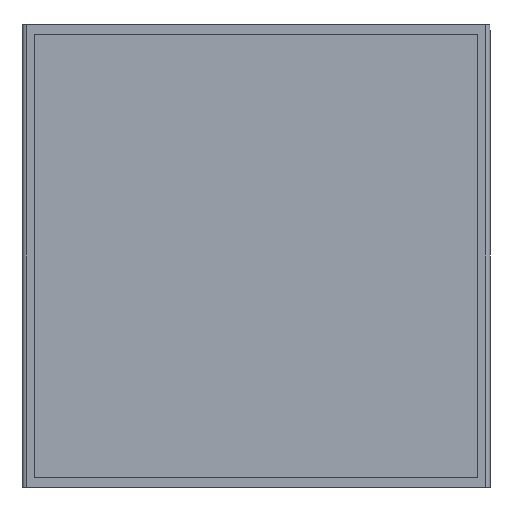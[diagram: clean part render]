
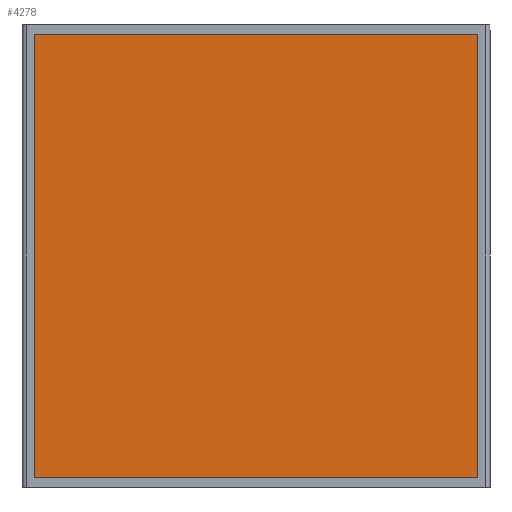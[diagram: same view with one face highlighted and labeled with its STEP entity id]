
A CAD part, front view. The second image highlights one B-rep face of the part: STEP entity #4278.
In plain terms, the highlighted planar face has unit normal (0, -1, 0).
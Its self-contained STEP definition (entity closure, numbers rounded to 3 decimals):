
#43 = CARTESIAN_POINT ( 'NONE',  ( -12.7, -0.127, -12.7 ) ) ;
#161 = VERTEX_POINT ( 'NONE', #1822 ) ;
#244 = EDGE_LOOP ( 'NONE', ( #1988, #2826, #2178, #2652 ) ) ;
#324 = EDGE_CURVE ( 'NONE', #161, #3626, #2679, .T. ) ;
#426 = CARTESIAN_POINT ( 'NONE',  ( -12.7, -0.127, -12.7 ) ) ;
#547 = CARTESIAN_POINT ( 'NONE',  ( -12.7, -0.127, 12.7 ) ) ;
#808 = DIRECTION ( 'NONE',  ( -1., 0., 0. ) ) ;
#862 = CARTESIAN_POINT ( 'NONE',  ( 12.7, -0.127, -12.7 ) ) ;
#870 = DIRECTION ( 'NONE',  ( 1., 0., 0. ) ) ;
#1066 = PLANE ( 'NONE',  #1858 ) ;
#1085 = VERTEX_POINT ( 'NONE', #3238 ) ;
#1105 = VECTOR ( 'NONE', #2571, 1000. ) ;
#1196 = VECTOR ( 'NONE', #4032, 1000. ) ;
#1303 = LINE ( 'NONE', #862, #1105 ) ;
#1418 = CARTESIAN_POINT ( 'NONE',  ( 12.7, -0.127, -12.7 ) ) ;
#1822 = CARTESIAN_POINT ( 'NONE',  ( -12.7, -0.127, 12.7 ) ) ;
#1858 = AXIS2_PLACEMENT_3D ( 'NONE', #547, #4584, #4107 ) ;
#1988 = ORIENTED_EDGE ( 'NONE', *, *, #3960, .F. ) ;
#2178 = ORIENTED_EDGE ( 'NONE', *, *, #3676, .F. ) ;
#2322 = LINE ( 'NONE', #43, #1196 ) ;
#2571 = DIRECTION ( 'NONE',  ( 0., 0., -1. ) ) ;
#2652 = ORIENTED_EDGE ( 'NONE', *, *, #324, .F. ) ;
#2679 = LINE ( 'NONE', #3040, #4269 ) ;
#2782 = FACE_OUTER_BOUND ( 'NONE', #244, .T. ) ;
#2826 = ORIENTED_EDGE ( 'NONE', *, *, #4157, .F. ) ;
#3040 = CARTESIAN_POINT ( 'NONE',  ( -12.7, -0.127, 12.7 ) ) ;
#3074 = VECTOR ( 'NONE', #808, 1000. ) ;
#3238 = CARTESIAN_POINT ( 'NONE',  ( -12.7, -0.127, -12.7 ) ) ;
#3327 = VERTEX_POINT ( 'NONE', #1418 ) ;
#3382 = LINE ( 'NONE', #426, #3074 ) ;
#3626 = VERTEX_POINT ( 'NONE', #5578 ) ;
#3676 = EDGE_CURVE ( 'NONE', #3626, #3327, #1303, .T. ) ;
#3960 = EDGE_CURVE ( 'NONE', #1085, #161, #2322, .T. ) ;
#4032 = DIRECTION ( 'NONE',  ( 0., 0., 1. ) ) ;
#4107 = DIRECTION ( 'NONE',  ( 0., 0., 1. ) ) ;
#4157 = EDGE_CURVE ( 'NONE', #3327, #1085, #3382, .T. ) ;
#4269 = VECTOR ( 'NONE', #870, 1000. ) ;
#4278 = ADVANCED_FACE ( 'NONE', ( #2782 ), #1066, .F. ) ;
#4584 = DIRECTION ( 'NONE',  ( 0., 1., 0. ) ) ;
#5578 = CARTESIAN_POINT ( 'NONE',  ( 12.7, -0.127, 12.7 ) ) ;
